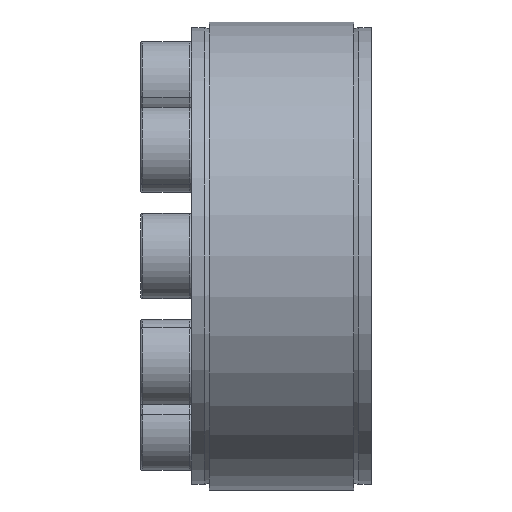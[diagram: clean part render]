
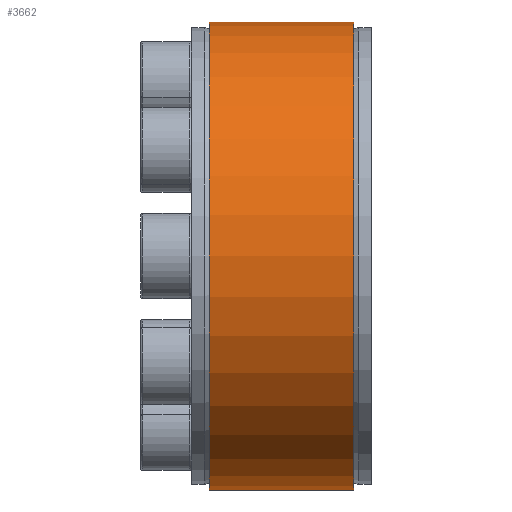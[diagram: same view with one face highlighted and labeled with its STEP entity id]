
A CAD part, front view. The second image highlights one B-rep face of the part: STEP entity #3662.
In plain terms, the highlighted cylindrical face has radius 27.5 mm (diameter 55 mm), a partial arc.
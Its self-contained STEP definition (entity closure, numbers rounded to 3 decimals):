
#42 = EDGE_CURVE ( 'NONE', #5078, #242, #5169, .T. ) ;
#242 = VERTEX_POINT ( 'NONE', #2667 ) ;
#362 = DIRECTION ( 'NONE',  ( -1., 0., 0. ) ) ;
#974 = EDGE_CURVE ( 'NONE', #7333, #5078, #6982, .T. ) ;
#1311 = CARTESIAN_POINT ( 'NONE',  ( 8.5, -0.04, -27.5 ) ) ;
#1676 = ORIENTED_EDGE ( 'NONE', *, *, #2806, .T. ) ;
#1765 = EDGE_LOOP ( 'NONE', ( #2221, #1676, #1902, #2455 ) ) ;
#1902 = ORIENTED_EDGE ( 'NONE', *, *, #5619, .T. ) ;
#1983 = CIRCLE ( 'NONE', #5244, 27.5 ) ;
#2036 = DIRECTION ( 'NONE',  ( 0., 0., 1. ) ) ;
#2221 = ORIENTED_EDGE ( 'NONE', *, *, #974, .F. ) ;
#2450 = VERTEX_POINT ( 'NONE', #7523 ) ;
#2455 = ORIENTED_EDGE ( 'NONE', *, *, #42, .F. ) ;
#2667 = CARTESIAN_POINT ( 'NONE',  ( -8.5, -0.04, 27.5 ) ) ;
#2727 = CARTESIAN_POINT ( 'NONE',  ( -8.5, -0.04, -27.5 ) ) ;
#2750 = AXIS2_PLACEMENT_3D ( 'NONE', #3119, #362, #2036 ) ;
#2806 = EDGE_CURVE ( 'NONE', #7333, #2450, #1983, .T. ) ;
#2905 = CARTESIAN_POINT ( 'NONE',  ( 8.5, -0.04, 0. ) ) ;
#2950 = DIRECTION ( 'NONE',  ( 0., 0., 1. ) ) ;
#3119 = CARTESIAN_POINT ( 'NONE',  ( -8.5, -0.04, 0. ) ) ;
#3156 = DIRECTION ( 'NONE',  ( -1., 0., 0. ) ) ;
#3384 = VECTOR ( 'NONE', #6898, 1000. ) ;
#3662 = ADVANCED_FACE ( 'NONE', ( #5751 ), #5170, .T. ) ;
#3899 = AXIS2_PLACEMENT_3D ( 'NONE', #5493, #5387, #5420 ) ;
#5078 = VERTEX_POINT ( 'NONE', #2727 ) ;
#5169 = CIRCLE ( 'NONE', #2750, 27.5 ) ;
#5170 = CYLINDRICAL_SURFACE ( 'NONE', #3899, 27.5 ) ;
#5244 = AXIS2_PLACEMENT_3D ( 'NONE', #2905, #3156, #2950 ) ;
#5387 = DIRECTION ( 'NONE',  ( -1., 0., 0. ) ) ;
#5420 = DIRECTION ( 'NONE',  ( 0., 0., 1. ) ) ;
#5493 = CARTESIAN_POINT ( 'NONE',  ( -10.57, -0.04, 0. ) ) ;
#5619 = EDGE_CURVE ( 'NONE', #2450, #242, #8423, .T. ) ;
#5751 = FACE_OUTER_BOUND ( 'NONE', #1765, .T. ) ;
#6364 = DIRECTION ( 'NONE',  ( -1., 0., 0. ) ) ;
#6898 = DIRECTION ( 'NONE',  ( -1., 0., 0. ) ) ;
#6954 = CARTESIAN_POINT ( 'NONE',  ( -10.57, -0.04, 27.5 ) ) ;
#6982 = LINE ( 'NONE', #7059, #7070 ) ;
#7059 = CARTESIAN_POINT ( 'NONE',  ( -10.57, -0.04, -27.5 ) ) ;
#7070 = VECTOR ( 'NONE', #6364, 1000. ) ;
#7333 = VERTEX_POINT ( 'NONE', #1311 ) ;
#7523 = CARTESIAN_POINT ( 'NONE',  ( 8.5, -0.04, 27.5 ) ) ;
#8423 = LINE ( 'NONE', #6954, #3384 ) ;
